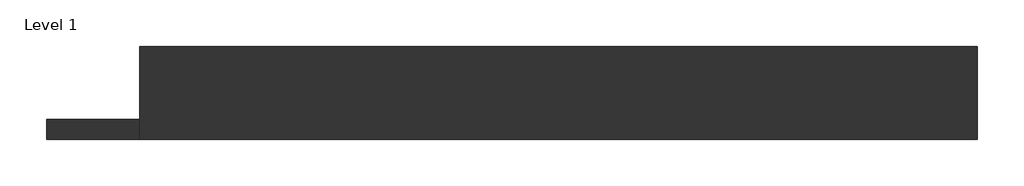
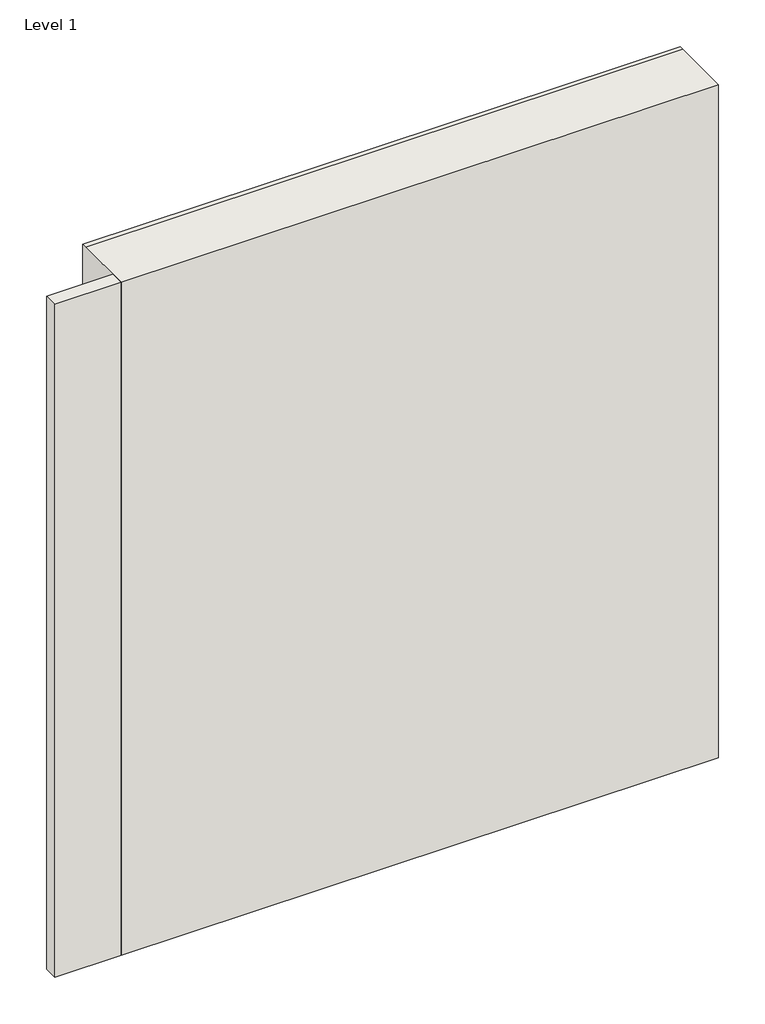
# One storey: 2 walls.
"""IFC4 building model written with IfcOpenShell, lengths in millimetres."""

from ifc_helpers import new_model, si_unit, frame, origin, place, context, project, spatial, polyline, outline, extrude, element, save

model = new_model("IFC4")

# Units and contexts
model_context = context("Model", 3, world=origin())
ifc_project = project(units=[si_unit("LENGTHUNIT", "METRE", prefix="MILLI")], contexts=[model_context])

# Site, building, storey
site = spatial("IfcSite", under=ifc_project)
building = spatial("IfcBuilding", under=site)
storey = spatial("IfcBuildingStorey", under=building, Name="Level 1", Elevation=0.0)

# Walls
placement = place(None, origin())
element("IfcWall", 1, ObjectType="STUCCO ON 1/2\" PLYWOOD ON 2x6 FRAMING ON 1/2\" GYP. (extendable gyp)", at=placement, inside=storey, context=model_context, shape_type="SweptSolid", body=[
    extrude(outline(polyline([(178.4898085, 2262.1875), (178.4898085, 355.6), (0.6898085, 355.6), (0.6898085, 2262.1875), (165.7898085, 2262.1875), (178.4898085, 2262.1875)])), frame((-814.6528432, 0.0, 0.0), z_axis=(1.0, 0.0, 0.0), x_axis=(0.0, 1.0, 0.0)), (0.0, 0.0, 1.0), 1600.2),
])
element("IfcWall", 2, ObjectType="STUCCO ON 1/2\" PLYWOOD", at=placement, inside=storey, context=model_context, shape_type="SweptSolid", body=[
    extrude(outline(polyline([(-992.4547674, 38.7898085), (-814.6528432, 38.7898085), (-814.6528432, 0.6898085), (-992.4547674, 0.6898085), (-992.4547674, 38.7898085)])), frame((0.0, 0.0, 355.6), z_axis=(0.0, 0.0, 1.0), x_axis=(1.0, 0.0, 0.0)), (0.0, 0.0, 1.0), 1906.5875),
])

save(model, "model.ifc")
